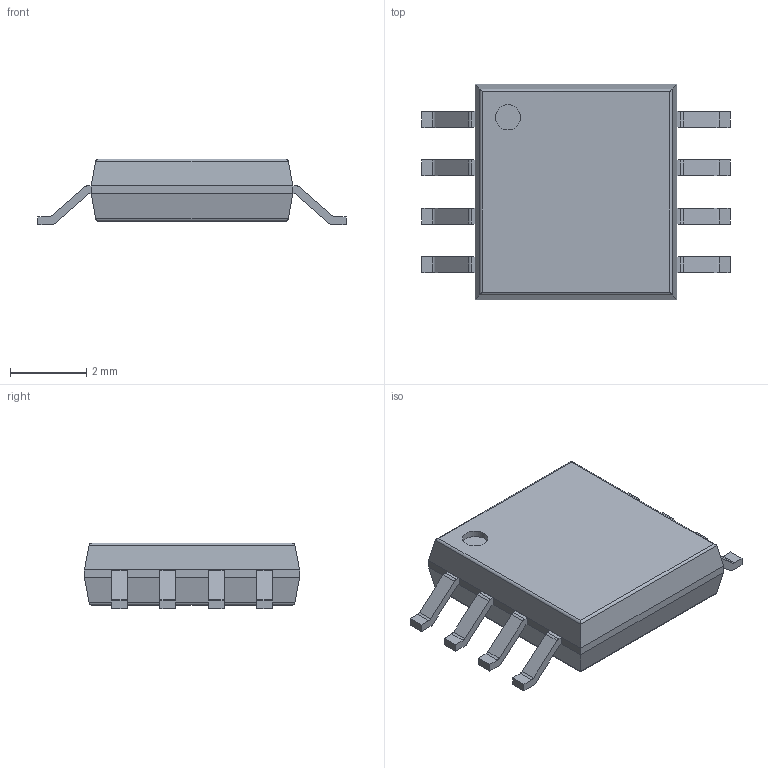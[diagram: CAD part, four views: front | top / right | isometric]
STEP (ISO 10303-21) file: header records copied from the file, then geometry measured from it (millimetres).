
FILE_DESCRIPTION(('FreeCAD Model'),'2;1');
FILE_NAME('/var/www/3D/0T/15872649.1.1.stp','2022-02-18T05:19:03',( 'Author'),(''),'Open CASCADE STEP processor 6.9','FreeCAD','Unknown' );
FILE_SCHEMA(('AUTOMOTIVE_DESIGN { 1 0 10303 214 1 1 1 1 }'));
Length unit declared in the file: millimetre
Products named in the file (3): ASSEMBLY; Body; PinsArrayLR
Assembly tree (2 placements, depth 2):
  ASSEMBLY
    Body
    PinsArrayLR
Bounding box: 8.1 x 5.65 x 1.73 mm (x, y, z)
Volume: 47.9 mm3; surface area: 107.8 mm2
Topology: 9 solids, 9 shells, 128 faces, 311 edges, 202 vertices
Faces by surface type: plane 95, cylinder 33
Full cylindrical faces by diameter (mm): 0.662 x1
Entity records: 8011 total; most frequent: CARTESIAN_POINT 1558, DIRECTION 1193, LINE 789, VECTOR 789, ORIENTED_EDGE 622, PCURVE 622, DEFINITIONAL_REPRESENTATION 622, EDGE_CURVE 311
